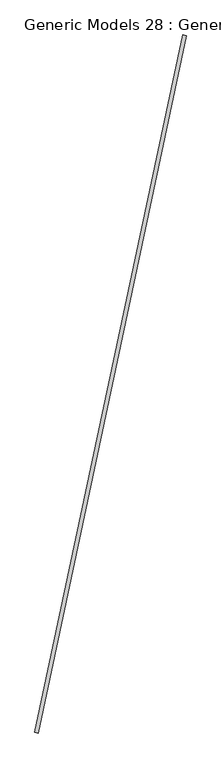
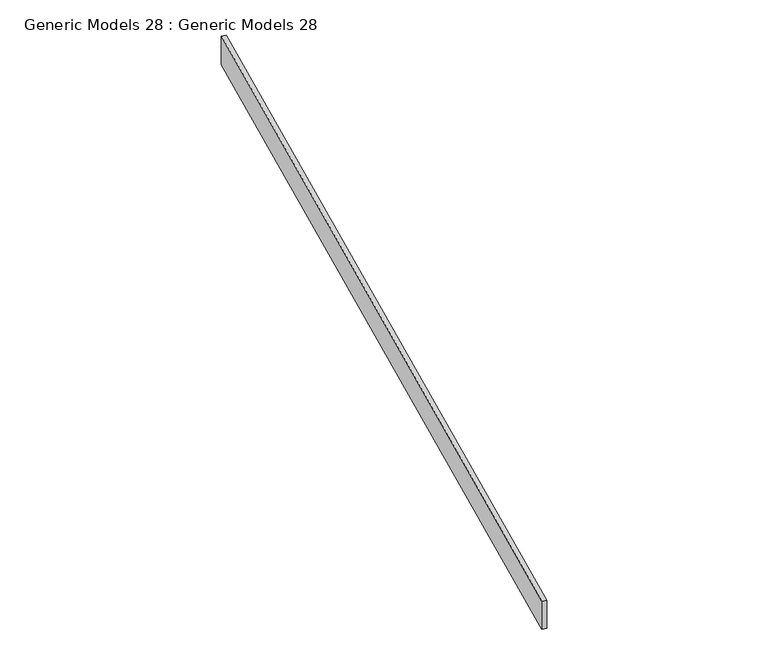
"""IFC4 building model written with IfcOpenShell, lengths in millimetres: proxy geometry, Generic Models 28 : Generic Models 28."""

from ifc_helpers import new_model, si_unit, frame, origin, place, context, project, spatial, polyline, outline, extrude, source, transform, mapped, element, save


def generic_models_28_generic_models_28_ffc0cb9e(model_context):
    return source(origin(), model_context, "Body", "SweptSolid", [
        extrude(outline(polyline([(515222.3204256, 14247.4801054), (510856.1749185, -6293.61951), (510755.8634458, -6272.2976483), (515122.008953, 14268.8019672), (515222.3204256, 14247.4801054)])), frame((0.0, 0.0, 1259.3751991), z_axis=(0.0, 0.0, 1.0), x_axis=(1.0, 0.0, 0.0)), (0.0, 0.0, 1.0), 700.0),
    ])


if __name__ == "__main__":
    model = new_model("IFC4")
    model_context = context("Model", 3, world=origin())
    ifc_project = project(units=[si_unit("LENGTHUNIT", "METRE", prefix="MILLI")], contexts=[model_context])
    site = spatial("IfcSite", under=ifc_project)
    building = spatial("IfcBuilding", under=site)
    placement = place(None, origin())
    generic_models_28_generic_models_28_shape = generic_models_28_generic_models_28_ffc0cb9e(model_context)
    element("IfcBuildingElementProxy", 1, Name="Generic Models 28 : Generic Models 28", ObjectType="Generic Models 28 : Generic Models 28", at=placement, inside=building, context=model_context, shape_type="MappedRepresentation", body=[
        mapped(generic_models_28_generic_models_28_shape, transform((0.0, 0.0, 0.0), x_axis=(1.0, 0.0, 0.0), y_axis=(0.0, 1.0, 0.0), z_axis=(0.0, 0.0, 1.0))),
    ])
    save(model, "model.ifc")
